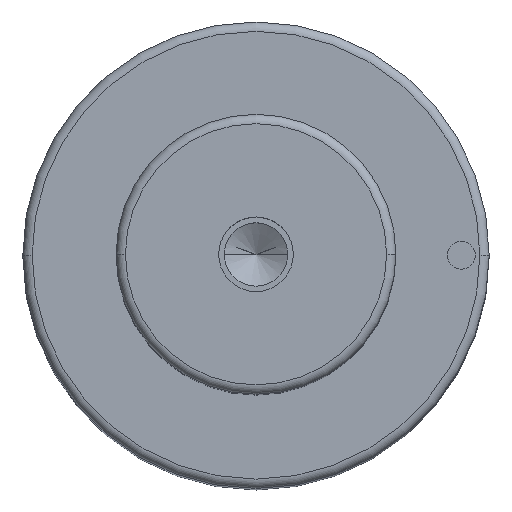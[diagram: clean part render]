
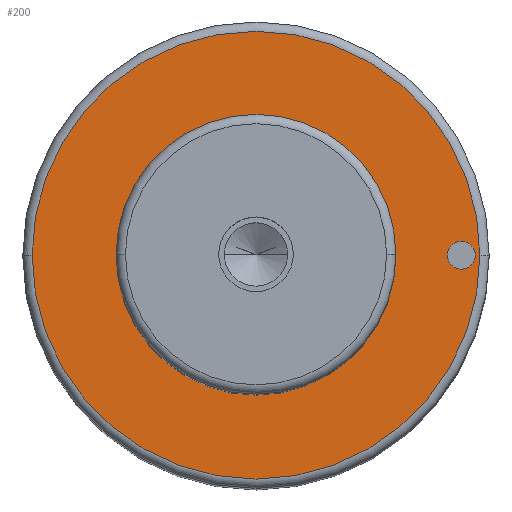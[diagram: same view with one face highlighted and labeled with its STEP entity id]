
A CAD part, top view. The second image highlights one B-rep face of the part: STEP entity #200.
In plain terms, the highlighted planar face has unit normal (0, 0, 1).
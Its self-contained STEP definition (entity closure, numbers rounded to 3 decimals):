
#99=PLANE('',#596);
#107=FACE_BOUND('',#265,.T.);
#108=FACE_BOUND('',#266,.T.);
#109=FACE_BOUND('',#267,.T.);
#200=ADVANCED_FACE('',(#107,#108,#109),#99,.T.);
#265=EDGE_LOOP('',(#359,#360));
#266=EDGE_LOOP('',(#361,#362));
#267=EDGE_LOOP('',(#363,#364));
#359=ORIENTED_EDGE('',*,*,#460,.F.);
#360=ORIENTED_EDGE('',*,*,#461,.F.);
#361=ORIENTED_EDGE('',*,*,#485,.F.);
#362=ORIENTED_EDGE('',*,*,#486,.F.);
#363=ORIENTED_EDGE('',*,*,#456,.T.);
#364=ORIENTED_EDGE('',*,*,#454,.T.);
#411=VERTEX_POINT('',#808);
#412=VERTEX_POINT('',#810);
#413=VERTEX_POINT('',#816);
#416=VERTEX_POINT('',#821);
#430=VERTEX_POINT('',#875);
#431=VERTEX_POINT('',#876);
#454=EDGE_CURVE('',#412,#411,#513,.T.);
#456=EDGE_CURVE('',#411,#412,#514,.T.);
#460=EDGE_CURVE('',#416,#413,#518,.T.);
#461=EDGE_CURVE('',#413,#416,#519,.T.);
#485=EDGE_CURVE('',#430,#431,#533,.T.);
#486=EDGE_CURVE('',#431,#430,#534,.T.);
#513=CIRCLE('',#558,15.);
#514=CIRCLE('',#560,15.);
#518=CIRCLE('',#565,24.);
#519=CIRCLE('',#567,24.);
#533=CIRCLE('',#594,1.5);
#534=CIRCLE('',#595,1.5);
#558=AXIS2_PLACEMENT_3D('',#809,#647,#648);
#560=AXIS2_PLACEMENT_3D('',#813,#652,#653);
#565=AXIS2_PLACEMENT_3D('',#822,#662,#663);
#567=AXIS2_PLACEMENT_3D('',#824,#666,#667);
#594=AXIS2_PLACEMENT_3D('',#874,#730,#731);
#595=AXIS2_PLACEMENT_3D('',#877,#732,#733);
#596=AXIS2_PLACEMENT_3D('',#878,#734,#735);
#647=DIRECTION('',(0.,0.,-1.));
#648=DIRECTION('',(0.,1.,0.));
#652=DIRECTION('',(0.,0.,-1.));
#653=DIRECTION('',(0.,-1.,0.));
#662=DIRECTION('',(0.,0.,-1.));
#663=DIRECTION('',(0.,1.,0.));
#666=DIRECTION('',(0.,0.,-1.));
#667=DIRECTION('',(0.,-1.,0.));
#730=DIRECTION('',(0.,0.,1.));
#731=DIRECTION('',(0.,1.,0.));
#732=DIRECTION('',(0.,0.,1.));
#733=DIRECTION('',(0.,-1.,0.));
#734=DIRECTION('',(0.,0.,1.));
#735=DIRECTION('',(0.,-1.,0.));
#808=CARTESIAN_POINT('',(-15.,0.,98.));
#809=CARTESIAN_POINT('',(0.,0.,98.));
#810=CARTESIAN_POINT('',(15.,0.,98.));
#813=CARTESIAN_POINT('',(0.,0.,98.));
#816=CARTESIAN_POINT('',(-24.,0.,98.));
#821=CARTESIAN_POINT('',(24.,0.,98.));
#822=CARTESIAN_POINT('',(0.,0.,98.));
#824=CARTESIAN_POINT('',(0.,0.,98.));
#874=CARTESIAN_POINT('',(22.,0.,98.));
#875=CARTESIAN_POINT('',(20.5,0.,98.));
#876=CARTESIAN_POINT('',(23.5,0.,98.));
#877=CARTESIAN_POINT('',(22.,0.,98.));
#878=CARTESIAN_POINT('',(0.,0.,98.));
